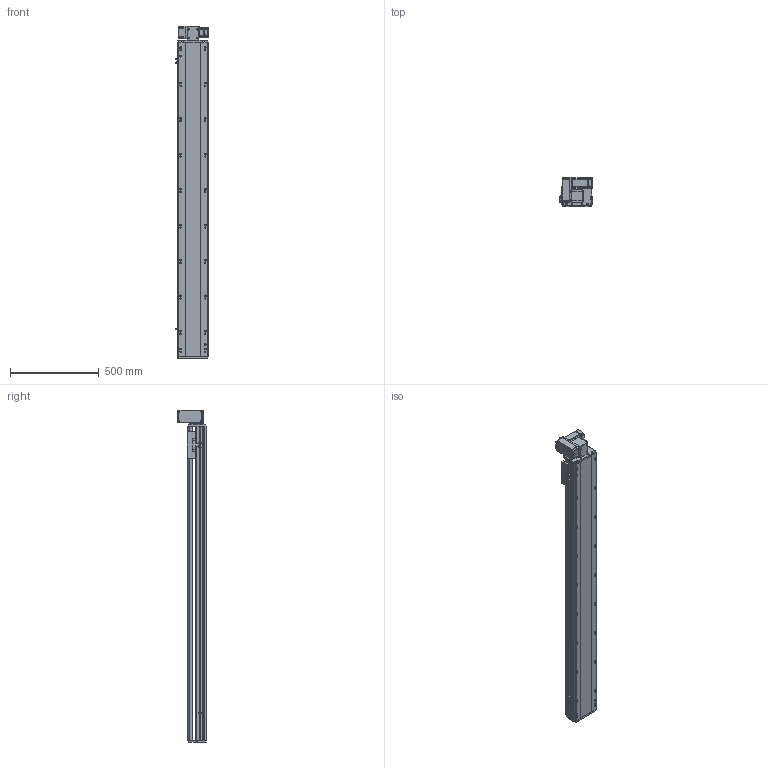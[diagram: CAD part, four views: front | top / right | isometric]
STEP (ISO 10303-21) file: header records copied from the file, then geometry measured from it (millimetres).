
FILE_DESCRIPTION (( 'STEP AP214' ), '1' );
FILE_NAME ('RTB17S-XX-1500-LW-M40-C4.STEP', '2025-12-11T07:07:50', ( '' ), ( '' ), 'SwSTEP 2.0', 'SolidWorks 2018', '' );
FILE_SCHEMA (( 'AUTOMOTIVE_DESIGN' ));
Length unit declared in the file: millimetre
Products named in the file (14): 400W侜督萇儂^RTB17S-XX-XX-LW-M40-C4; RTB14-L-005P--轴承塑胶压盖^RTB17S-LW-皮带座装配-400W_RTB17S-XX-XX-LW-M40-C4; RTB14-L-018P^RTB17S-LW-々湍釱蚾饜-400W_RTB17S-XX-XX-LW-M40-C4; RTB17S-L-004佪裝蹟譫蟀諉釱^RTB17S-XX-XX-LW-M40-C4; RTB17S-LW-々湍釱蚾饜-400W^RTB17S-XX-XX-LW-M40-C4; RTB14-L-008-M20--萇儂啣^RTB17S-LW-々湍釱蚾饜-400W_RTB17S-XX-XX-LW-M40-C4; OMRON EE-SX672 传感器^RTB17S-XX-XX-LW-M40-C4; RTB14-L-017P^RTB17S-LW-々湍釱蚾饜-400W_RTB17S-XX-XX-LW-M40-C4; RTB17-R-011菁釱^RTB17S-XX-XX-LW-M40-C4; RTB17S-L-001耜醱啣^RTB17S-XX-XX-LW-M40-C4; RTH13-BL-012覜茼え俋离^RTB17S-XX-XX-LW-M40-C4; RTB17S-L-014-T20--々湍釱^RTB17S-LW-々湍釱蚾饜-400W_RTB17S-XX-XX-LW-M40-C4; RTB17S-XX-1500-LW-M40-C4; RTB17S-L-007奻裔^RTB17S-XX-XX-LW-M40-C4
Assembly tree (16 placements, depth 3):
  RTB17S-XX-1500-LW-M40-C4
    RTB17-R-011菁釱^RTB17S-XX-XX-LW-M40-C4
    RTB17S-L-007奻裔^RTB17S-XX-XX-LW-M40-C4
    OMRON EE-SX672 传感器^RTB17S-XX-XX-LW-M40-C4  x3
    RTB17S-L-001耜醱啣^RTB17S-XX-XX-LW-M40-C4
    400W侜督萇儂^RTB17S-XX-XX-LW-M40-C4
    RTB17S-L-004佪裝蹟譫蟀諉釱^RTB17S-XX-XX-LW-M40-C4
    RTH13-BL-012覜茼え俋离^RTB17S-XX-XX-LW-M40-C4
    RTB17S-LW-々湍釱蚾饜-400W^RTB17S-XX-XX-LW-M40-C4
      RTB17S-L-014-T20--々湍釱^RTB17S-LW-々湍釱蚾饜-400W_RTB17S-XX-XX-LW-M40-C4
      RTB14-L-005P--轴承塑胶压盖^RTB17S-LW-皮带座装配-400W_RTB17S-XX-XX-LW-M40-C4
      RTB14-L-008-M20--萇儂啣^RTB17S-LW-々湍釱蚾饜-400W_RTB17S-XX-XX-LW-M40-C4
      RTB14-L-017P^RTB17S-LW-々湍釱蚾饜-400W_RTB17S-XX-XX-LW-M40-C4  x2
      RTB14-L-018P^RTB17S-LW-々湍釱蚾饜-400W_RTB17S-XX-XX-LW-M40-C4
Bounding box: 186 x 160.5 x 1872.5 mm (x, y, z)
Volume: 16449197.5 mm3; surface area: 1943609.8 mm2
Topology: 15 solids, 15 shells, 2253 faces, 6249 edges, 4077 vertices
Faces by surface type: plane 1074, cylinder 731, bspline 301, cone 139, torus 8
Entity records: 64937 total; most frequent: CARTESIAN_POINT 18254, ORIENTED_EDGE 9342, DIRECTION 8666, EDGE_CURVE 4671, VERTEX_POINT 3065, AXIS2_PLACEMENT_3D 2995, VECTOR 2676, LINE 2676
